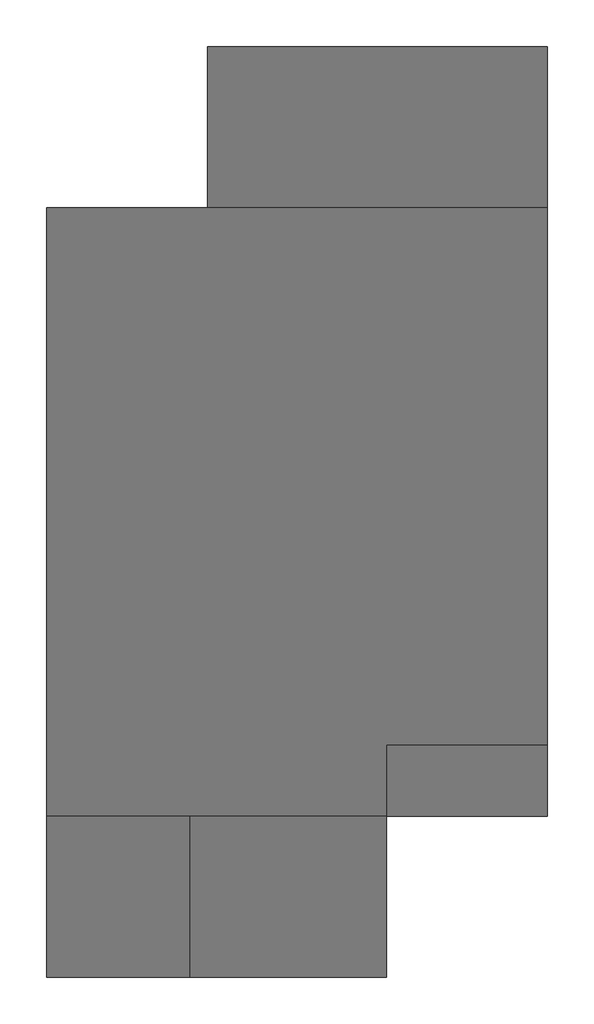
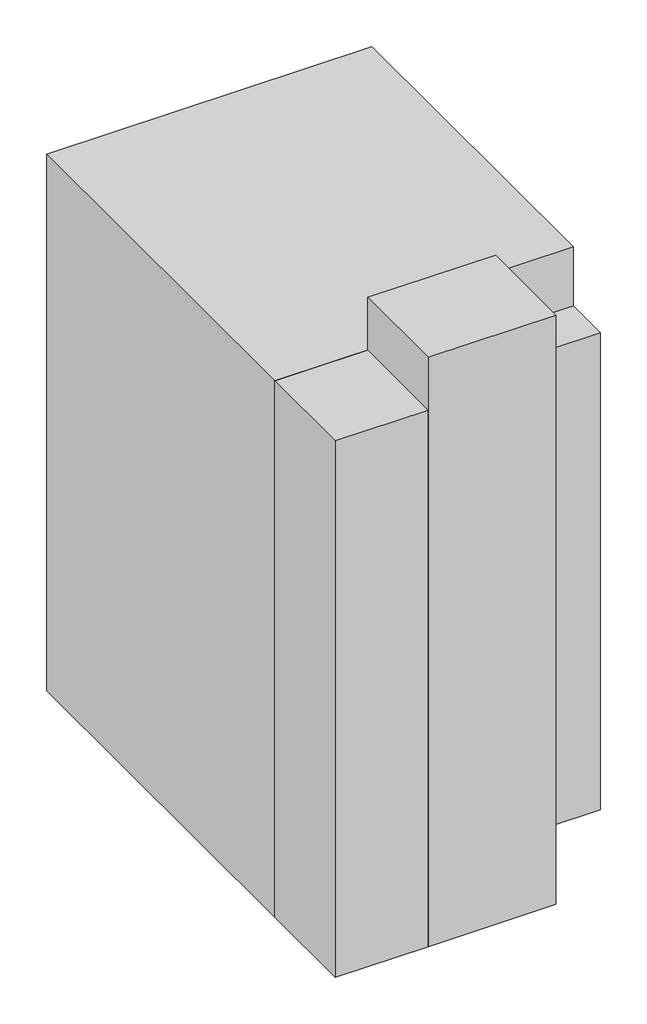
# One storey: 5 proxies.
"""IFC4 building model written with IfcOpenShell, lengths in millimetres."""

from ifc_helpers import new_model, si_unit, origin, origin_with_axes, place, context, project, spatial, polyline, outline, extrude, element, save

model = new_model("IFC4")

# Units and contexts
model_context = context("Model", 3, world=origin())
ifc_project = project(units=[si_unit("LENGTHUNIT", "METRE", prefix="MILLI")], contexts=[model_context])

# Site, building, storey
site = spatial("IfcSite", under=ifc_project)
building = spatial("IfcBuilding", under=site)
storey = spatial("IfcBuildingStorey", under=building, Name="設計GL", Elevation=0.0)

# Proxies
placement = place(None, origin())
element("IfcBuildingElementProxy", 1, Name="マス 1 : マス 1", ObjectType="マス 1 : マス 1", at=placement, inside=storey, context=model_context, shape_type="SweptSolid", body=[
    extrude(outline(polyline([(-7648.9722403, -11234.0481368), (-7648.9722403, 5765.9518632), (6351.0277597, 5765.9518632), (6351.0277597, -9234.0481368), (1851.0277597, -9234.0481368), (1851.0277597, -11234.0481368), (-7648.9722403, -11234.0481368)])), origin_with_axes(), (0.0, 0.0, 1.0), 24400.0),
])
element("IfcBuildingElementProxy", 2, Name="マス 2 : マス 2", ObjectType="マス 2 : マス 2", at=placement, inside=storey, context=model_context, shape_type="SweptSolid", body=[
    extrude(outline(polyline([(-3148.9722403, 5765.9518632), (-3148.9722403, 10265.9518632), (6351.0277597, 10265.9518632), (6351.0277597, 5765.9518632), (-3148.9722403, 5765.9518632)])), origin_with_axes(), (0.0, 0.0, 1.0), 8300.0),
])
element("IfcBuildingElementProxy", 3, Name="マス 3 : マス 3", ObjectType="マス 3 : マス 3", at=placement, inside=storey, context=model_context, shape_type="SweptSolid", body=[
    extrude(outline(polyline([(-7648.9722403, -15734.0481368), (-7648.9722403, -11234.0481368), (-3648.9722403, -11234.0481368), (-3648.9722403, -15734.0481368), (-7648.9722403, -15734.0481368)])), origin_with_axes(), (0.0, 0.0, 1.0), 24400.0),
])
element("IfcBuildingElementProxy", 4, Name="マス 4 : マス 4", ObjectType="マス 4 : マス 4", at=placement, inside=storey, context=model_context, shape_type="SweptSolid", body=[
    extrude(outline(polyline([(1851.0277597, -15734.0481368), (-3648.9722403, -15734.0481368), (-3648.9722403, -11234.0481368), (1851.0277597, -11234.0481368), (1851.0277597, -15734.0481368)])), origin_with_axes(), (0.0, 0.0, 1.0), 26800.0),
])
element("IfcBuildingElementProxy", 5, Name="マス 5 : マス 5", ObjectType="マス 5 : マス 5", at=placement, inside=storey, context=model_context, shape_type="SweptSolid", body=[
    extrude(outline(polyline([(1851.0277597, -11234.0481368), (1851.0277597, -9234.0481368), (6351.0277597, -9234.0481368), (6351.0277597, -11234.0481368), (1851.0277597, -11234.0481368)])), origin_with_axes(), (0.0, 0.0, 1.0), 21700.0),
])

save(model, "model.ifc")
